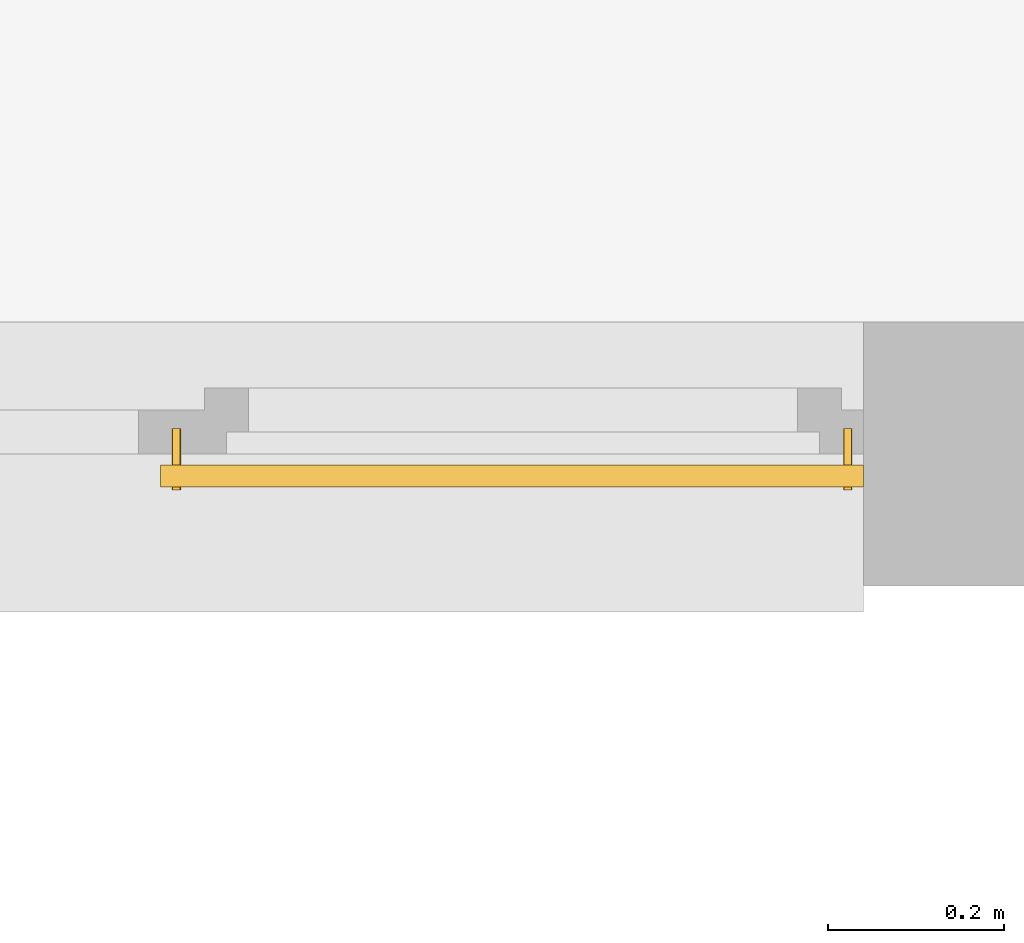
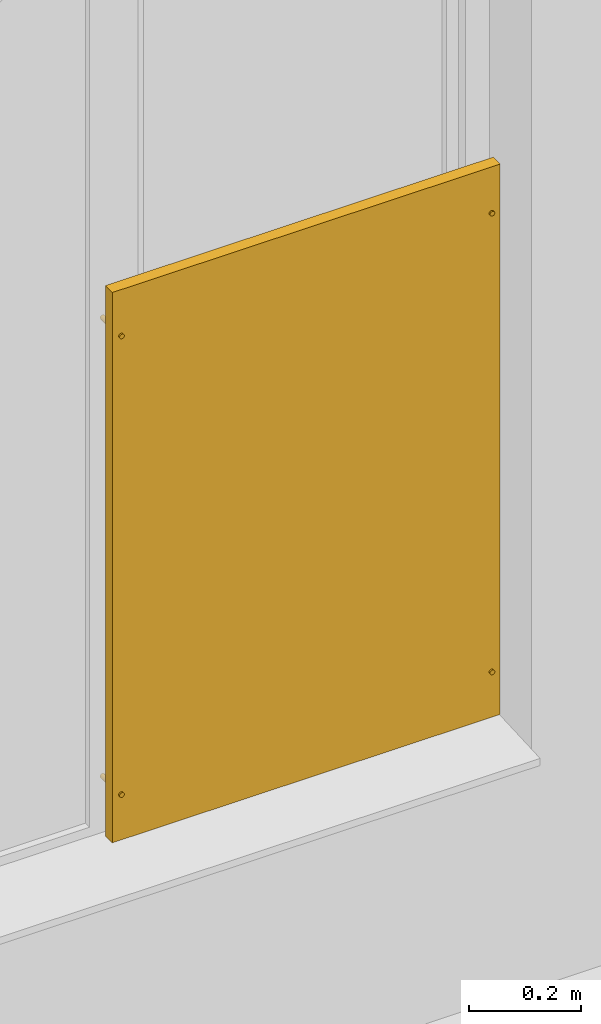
# One storey, part 8 of 8: 1 railing.
"""IFC2X3 building model written with IfcOpenShell, lengths in millimetres."""

from ifc_helpers import new_model, entity, si_unit, converted_unit, derived_unit, money_unit, direction, frame, origin_with_axes, place, context, subcontext, project, spatial, faceted_brep, material, material_list, type_object, element, save


model = new_model("IFC2X3")

# Units and contexts
model_context = context("Model", 3, precision=1e-05, world=origin_with_axes(), true_north=direction((0.0, 1.0)))
body_context = subcontext(model_context, "Body", "Model", "MODEL_VIEW")
ifc_project = project(units=[si_unit("LENGTHUNIT", "METRE", prefix="MILLI"), si_unit("AREAUNIT", "SQUARE_METRE"), si_unit("VOLUMEUNIT", "CUBIC_METRE"), converted_unit("PLANEANGLEUNIT", "DEGREE", entity("IfcPlaneAngleMeasure", 0.0174532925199), si_unit("PLANEANGLEUNIT", "RADIAN"), dimensions=[0, 0, 0, 0, 0, 0, 0]), si_unit("SOLIDANGLEUNIT", "STERADIAN"), money_unit("USD"), converted_unit("TIMEUNIT", "Year", entity("IfcTimeMeasure", 31556926.0), si_unit("TIMEUNIT", "SECOND"), dimensions=[0, 0, 1, 0, 0, 0, 0]), si_unit("MASSUNIT", "GRAM", prefix="KILO"), si_unit("THERMODYNAMICTEMPERATUREUNIT", "DEGREE_CELSIUS"), si_unit("LUMINOUSINTENSITYUNIT", "LUMEN"), si_unit("ENERGYUNIT", "JOULE", prefix="MEGA"), derived_unit("THERMALCONDUCTANCEUNIT", [(si_unit("POWERUNIT", "WATT"), 1), (si_unit("LENGTHUNIT", "METRE"), -1), (si_unit("THERMODYNAMICTEMPERATUREUNIT", "KELVIN"), -1)]), derived_unit("SPECIFICHEATCAPACITYUNIT", [(si_unit("ENERGYUNIT", "JOULE"), 1), (si_unit("MASSUNIT", "GRAM", prefix="KILO"), -1), (si_unit("THERMODYNAMICTEMPERATUREUNIT", "KELVIN"), -1)]), derived_unit("MASSDENSITYUNIT", [(si_unit("MASSUNIT", "GRAM", prefix="KILO"), 1), (si_unit("VOLUMEUNIT", "CUBIC_METRE"), -1)])], contexts=[model_context])

# Site, building, storey
site_placement = place(None, origin_with_axes())
site = spatial("IfcSite", under=ifc_project, at=site_placement, Name="Site", CompositionType="ELEMENT")
building_placement = place(site_placement, origin_with_axes())
building = spatial("IfcBuilding", under=site, at=building_placement, Name="Building", CompositionType="ELEMENT")
storey_placement = place(building_placement, origin_with_axes())
storey = spatial("IfcBuildingStorey", under=building, at=storey_placement, Name="Ground Floor", CompositionType="ELEMENT", Elevation=0.0)

# Railing
ifc_material = material(Name="Aluminium")
ifc_material_list = material_list([ifc_material, ifc_material, ifc_material, ifc_material, ifc_material, ifc_material])
railing_type = type_object("IfcRailingType", Name="Railing Type", PredefinedType="NOTDEFINED")
railing_placement = place(storey_placement, frame((-20307.1700511, 6703.49861059, 530.0), z_axis=(0.0, 0.0, 1.0), x_axis=(0.0, 1.0, 0.0)))
element("IfcRailing", 1, at=railing_placement, inside=storey, type_object=railing_type, material=ifc_material_list, Name="F-Line NORDKAPP 1,2m", PredefinedType="NOTDEFINED", context=body_context, shape_type="Brep", body=[
    faceted_brep([(-29.0, 791.5, 1191.5), (-29.0, 791.5, 8.5), (-29.0, 8.5, 8.5), (-29.0, 8.5, 1191.5), (-21.0, 791.5, 1191.5), (-21.0, 791.5, 8.5), (-21.0, 8.5, 8.5), (-21.0, 8.5, 1191.5)], [[[0, 1, 2, 3]], [[1, 0, 4, 5]], [[6, 2, 1, 5]], [[7, 3, 2, 6]], [[0, 3, 7, 4]], [[6, 5, 4, 7]]]),
    faceted_brep([(-41.0, 22.9240387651, 100.868240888), (29.0, 22.9240387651, 100.868240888), (29.0, 22.9240387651, 99.1317591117), (-41.0, 22.9240387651, 99.1317591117), (-41.0, 22.6984631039, 101.710100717), (29.0, 22.6984631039, 101.710100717), (29.0, 22.3301270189, 102.5), (29.0, 21.8302222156, 103.213938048), (29.0, 21.2139380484, 103.830222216), (29.0, 20.5, 104.330127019), (29.0, 19.7101007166, 104.698463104), (29.0, 18.8682408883, 104.924038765), (29.0, 18.0, 105.0), (29.0, 17.1317591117, 104.924038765), (29.0, 16.2898992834, 104.698463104), (29.0, 15.5, 104.330127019), (29.0, 14.7860619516, 103.830222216), (29.0, 14.1697777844, 103.213938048), (29.0, 13.6698729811, 102.5), (29.0, 13.3015368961, 101.710100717), (29.0, 13.0759612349, 100.868240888), (29.0, 13.0, 100.0), (29.0, 13.0759612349, 99.1317591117), (29.0, 13.3015368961, 98.2898992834), (29.0, 13.6698729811, 97.5), (29.0, 14.1697777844, 96.7860619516), (29.0, 14.7860619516, 96.1697777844), (29.0, 15.5, 95.6698729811), (29.0, 16.2898992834, 95.3015368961), (29.0, 17.1317591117, 95.0759612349), (29.0, 18.0, 95.0), (29.0, 18.8682408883, 95.0759612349), (29.0, 19.7101007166, 95.3015368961), (29.0, 20.5, 95.6698729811), (29.0, 21.2139380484, 96.1697777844), (29.0, 21.8302222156, 96.7860619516), (29.0, 22.3301270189, 97.5), (29.0, 22.6984631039, 98.2898992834), (-41.0, 22.6984631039, 98.2898992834), (-41.0, 22.3301270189, 97.5), (-41.0, 21.8302222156, 96.7860619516), (-41.0, 21.2139380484, 96.1697777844), (-41.0, 20.5, 95.6698729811), (-41.0, 19.7101007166, 95.3015368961), (-41.0, 18.8682408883, 95.0759612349), (-41.0, 18.0, 95.0), (-41.0, 17.1317591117, 95.0759612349), (-41.0, 16.2898992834, 95.3015368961), (-41.0, 15.5, 95.6698729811), (-41.0, 14.7860619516, 96.1697777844), (-41.0, 14.1697777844, 96.7860619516), (-41.0, 13.6698729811, 97.5), (-41.0, 13.3015368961, 98.2898992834), (-41.0, 13.0759612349, 99.1317591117), (-41.0, 13.0, 100.0), (-41.0, 13.0759612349, 100.868240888), (-41.0, 13.3015368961, 101.710100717), (-41.0, 13.6698729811, 102.5), (-41.0, 14.1697777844, 103.213938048), (-41.0, 14.7860619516, 103.830222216), (-41.0, 15.5, 104.330127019), (-41.0, 16.2898992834, 104.698463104), (-41.0, 17.1317591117, 104.924038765), (-41.0, 18.0, 105.0), (-41.0, 18.8682408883, 104.924038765), (-41.0, 19.7101007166, 104.698463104), (-41.0, 20.5, 104.330127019), (-41.0, 21.2139380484, 103.830222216), (-41.0, 21.8302222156, 103.213938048), (-41.0, 22.3301270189, 102.5)], [[[0, 1, 2, 3]], [[4, 5, 1, 0]], [[1, 5, 6, 7, 8, 9, 10, 11, 12, 13, 14, 15, 16, 17, 18, 19, 20, 21, 22, 23, 24, 25, 26, 27, 28, 29, 30, 31, 32, 33, 34, 35, 36, 37, 2]], [[3, 2, 37, 38]], [[0, 3, 38, 39, 40, 41, 42, 43, 44, 45, 46, 47, 48, 49, 50, 51, 52, 53, 54, 55, 56, 57, 58, 59, 60, 61, 62, 63, 64, 65, 66, 67, 68, 69, 4]], [[69, 6, 5, 4]], [[68, 7, 6, 69]], [[67, 8, 7, 68]], [[66, 9, 8, 67]], [[65, 10, 9, 66]], [[64, 11, 10, 65]], [[63, 12, 11, 64]], [[62, 13, 12, 63]], [[61, 14, 13, 62]], [[60, 15, 14, 61]], [[59, 16, 15, 60]], [[58, 17, 16, 59]], [[57, 18, 17, 58]], [[56, 19, 18, 57]], [[55, 20, 19, 56]], [[54, 21, 20, 55]], [[53, 22, 21, 54]], [[52, 23, 22, 53]], [[51, 24, 23, 52]], [[50, 25, 24, 51]], [[49, 26, 25, 50]], [[48, 27, 26, 49]], [[47, 28, 27, 48]], [[46, 29, 28, 47]], [[45, 30, 29, 46]], [[44, 31, 30, 45]], [[43, 32, 31, 44]], [[42, 33, 32, 43]], [[41, 34, 33, 42]], [[40, 35, 34, 41]], [[39, 36, 35, 40]], [[38, 37, 36, 39]]]),
    faceted_brep([(-41.0, 22.9240387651, 1100.86824089), (29.0, 22.9240387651, 1100.86824089), (29.0, 22.9240387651, 1099.13175911), (-41.0, 22.9240387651, 1099.13175911), (-41.0, 22.6984631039, 1101.71010072), (29.0, 22.6984631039, 1101.71010072), (29.0, 22.3301270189, 1102.5), (29.0, 21.8302222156, 1103.21393805), (29.0, 21.2139380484, 1103.83022222), (29.0, 20.5, 1104.33012702), (29.0, 19.7101007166, 1104.6984631), (29.0, 18.8682408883, 1104.92403877), (29.0, 18.0, 1105.0), (29.0, 17.1317591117, 1104.92403877), (29.0, 16.2898992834, 1104.6984631), (29.0, 15.5, 1104.33012702), (29.0, 14.7860619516, 1103.83022222), (29.0, 14.1697777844, 1103.21393805), (29.0, 13.6698729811, 1102.5), (29.0, 13.3015368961, 1101.71010072), (29.0, 13.0759612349, 1100.86824089), (29.0, 13.0, 1100.0), (29.0, 13.0759612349, 1099.13175911), (29.0, 13.3015368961, 1098.28989928), (29.0, 13.6698729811, 1097.5), (29.0, 14.1697777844, 1096.78606195), (29.0, 14.7860619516, 1096.16977778), (29.0, 15.5, 1095.66987298), (29.0, 16.2898992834, 1095.3015369), (29.0, 17.1317591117, 1095.07596123), (29.0, 18.0, 1095.0), (29.0, 18.8682408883, 1095.07596123), (29.0, 19.7101007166, 1095.3015369), (29.0, 20.5, 1095.66987298), (29.0, 21.2139380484, 1096.16977778), (29.0, 21.8302222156, 1096.78606195), (29.0, 22.3301270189, 1097.5), (29.0, 22.6984631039, 1098.28989928), (-41.0, 22.6984631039, 1098.28989928), (-41.0, 22.3301270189, 1097.5), (-41.0, 21.8302222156, 1096.78606195), (-41.0, 21.2139380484, 1096.16977778), (-41.0, 20.5, 1095.66987298), (-41.0, 19.7101007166, 1095.3015369), (-41.0, 18.8682408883, 1095.07596123), (-41.0, 18.0, 1095.0), (-41.0, 17.1317591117, 1095.07596123), (-41.0, 16.2898992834, 1095.3015369), (-41.0, 15.5, 1095.66987298), (-41.0, 14.7860619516, 1096.16977778), (-41.0, 14.1697777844, 1096.78606195), (-41.0, 13.6698729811, 1097.5), (-41.0, 13.3015368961, 1098.28989928), (-41.0, 13.0759612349, 1099.13175911), (-41.0, 13.0, 1100.0), (-41.0, 13.0759612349, 1100.86824089), (-41.0, 13.3015368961, 1101.71010072), (-41.0, 13.6698729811, 1102.5), (-41.0, 14.1697777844, 1103.21393805), (-41.0, 14.7860619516, 1103.83022222), (-41.0, 15.5, 1104.33012702), (-41.0, 16.2898992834, 1104.6984631), (-41.0, 17.1317591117, 1104.92403877), (-41.0, 18.0, 1105.0), (-41.0, 18.8682408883, 1104.92403877), (-41.0, 19.7101007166, 1104.6984631), (-41.0, 20.5, 1104.33012702), (-41.0, 21.2139380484, 1103.83022222), (-41.0, 21.8302222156, 1103.21393805), (-41.0, 22.3301270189, 1102.5)], [[[0, 1, 2, 3]], [[4, 5, 1, 0]], [[1, 5, 6, 7, 8, 9, 10, 11, 12, 13, 14, 15, 16, 17, 18, 19, 20, 21, 22, 23, 24, 25, 26, 27, 28, 29, 30, 31, 32, 33, 34, 35, 36, 37, 2]], [[3, 2, 37, 38]], [[0, 3, 38, 39, 40, 41, 42, 43, 44, 45, 46, 47, 48, 49, 50, 51, 52, 53, 54, 55, 56, 57, 58, 59, 60, 61, 62, 63, 64, 65, 66, 67, 68, 69, 4]], [[69, 6, 5, 4]], [[68, 7, 6, 69]], [[67, 8, 7, 68]], [[66, 9, 8, 67]], [[65, 10, 9, 66]], [[64, 11, 10, 65]], [[63, 12, 11, 64]], [[62, 13, 12, 63]], [[61, 14, 13, 62]], [[60, 15, 14, 61]], [[59, 16, 15, 60]], [[58, 17, 16, 59]], [[57, 18, 17, 58]], [[56, 19, 18, 57]], [[55, 20, 19, 56]], [[54, 21, 20, 55]], [[53, 22, 21, 54]], [[52, 23, 22, 53]], [[51, 24, 23, 52]], [[50, 25, 24, 51]], [[49, 26, 25, 50]], [[48, 27, 26, 49]], [[47, 28, 27, 48]], [[46, 29, 28, 47]], [[45, 30, 29, 46]], [[44, 31, 30, 45]], [[43, 32, 31, 44]], [[42, 33, 32, 43]], [[41, 34, 33, 42]], [[40, 35, 34, 41]], [[39, 36, 35, 40]], [[38, 37, 36, 39]]]),
    faceted_brep([(-41.0, 786.924038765, 100.868240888), (29.0, 786.924038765, 100.868240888), (29.0, 786.924038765, 99.1317591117), (-41.0, 786.924038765, 99.1317591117), (-41.0, 786.698463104, 101.710100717), (29.0, 786.698463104, 101.710100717), (29.0, 786.330127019, 102.5), (29.0, 785.830222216, 103.213938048), (29.0, 785.213938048, 103.830222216), (29.0, 784.5, 104.330127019), (29.0, 783.710100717, 104.698463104), (29.0, 782.868240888, 104.924038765), (29.0, 782.0, 105.0), (29.0, 781.131759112, 104.924038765), (29.0, 780.289899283, 104.698463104), (29.0, 779.5, 104.330127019), (29.0, 778.786061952, 103.830222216), (29.0, 778.169777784, 103.213938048), (29.0, 777.669872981, 102.5), (29.0, 777.301536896, 101.710100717), (29.0, 777.075961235, 100.868240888), (29.0, 777.0, 100.0), (29.0, 777.075961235, 99.1317591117), (29.0, 777.301536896, 98.2898992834), (29.0, 777.669872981, 97.5), (29.0, 778.169777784, 96.7860619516), (29.0, 778.786061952, 96.1697777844), (29.0, 779.5, 95.6698729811), (29.0, 780.289899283, 95.3015368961), (29.0, 781.131759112, 95.0759612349), (29.0, 782.0, 95.0), (29.0, 782.868240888, 95.0759612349), (29.0, 783.710100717, 95.3015368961), (29.0, 784.5, 95.6698729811), (29.0, 785.213938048, 96.1697777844), (29.0, 785.830222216, 96.7860619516), (29.0, 786.330127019, 97.5), (29.0, 786.698463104, 98.2898992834), (-41.0, 786.698463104, 98.2898992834), (-41.0, 786.330127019, 97.5), (-41.0, 785.830222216, 96.7860619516), (-41.0, 785.213938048, 96.1697777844), (-41.0, 784.5, 95.6698729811), (-41.0, 783.710100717, 95.3015368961), (-41.0, 782.868240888, 95.0759612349), (-41.0, 782.0, 95.0), (-41.0, 781.131759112, 95.0759612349), (-41.0, 780.289899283, 95.3015368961), (-41.0, 779.5, 95.6698729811), (-41.0, 778.786061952, 96.1697777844), (-41.0, 778.169777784, 96.7860619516), (-41.0, 777.669872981, 97.5), (-41.0, 777.301536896, 98.2898992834), (-41.0, 777.075961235, 99.1317591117), (-41.0, 777.0, 100.0), (-41.0, 777.075961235, 100.868240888), (-41.0, 777.301536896, 101.710100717), (-41.0, 777.669872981, 102.5), (-41.0, 778.169777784, 103.213938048), (-41.0, 778.786061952, 103.830222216), (-41.0, 779.5, 104.330127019), (-41.0, 780.289899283, 104.698463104), (-41.0, 781.131759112, 104.924038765), (-41.0, 782.0, 105.0), (-41.0, 782.868240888, 104.924038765), (-41.0, 783.710100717, 104.698463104), (-41.0, 784.5, 104.330127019), (-41.0, 785.213938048, 103.830222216), (-41.0, 785.830222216, 103.213938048), (-41.0, 786.330127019, 102.5)], [[[0, 1, 2, 3]], [[4, 5, 1, 0]], [[1, 5, 6, 7, 8, 9, 10, 11, 12, 13, 14, 15, 16, 17, 18, 19, 20, 21, 22, 23, 24, 25, 26, 27, 28, 29, 30, 31, 32, 33, 34, 35, 36, 37, 2]], [[3, 2, 37, 38]], [[0, 3, 38, 39, 40, 41, 42, 43, 44, 45, 46, 47, 48, 49, 50, 51, 52, 53, 54, 55, 56, 57, 58, 59, 60, 61, 62, 63, 64, 65, 66, 67, 68, 69, 4]], [[69, 6, 5, 4]], [[68, 7, 6, 69]], [[67, 8, 7, 68]], [[66, 9, 8, 67]], [[65, 10, 9, 66]], [[64, 11, 10, 65]], [[63, 12, 11, 64]], [[62, 13, 12, 63]], [[61, 14, 13, 62]], [[60, 15, 14, 61]], [[59, 16, 15, 60]], [[58, 17, 16, 59]], [[57, 18, 17, 58]], [[56, 19, 18, 57]], [[55, 20, 19, 56]], [[54, 21, 20, 55]], [[53, 22, 21, 54]], [[52, 23, 22, 53]], [[51, 24, 23, 52]], [[50, 25, 24, 51]], [[49, 26, 25, 50]], [[48, 27, 26, 49]], [[47, 28, 27, 48]], [[46, 29, 28, 47]], [[45, 30, 29, 46]], [[44, 31, 30, 45]], [[43, 32, 31, 44]], [[42, 33, 32, 43]], [[41, 34, 33, 42]], [[40, 35, 34, 41]], [[39, 36, 35, 40]], [[38, 37, 36, 39]]]),
    faceted_brep([(-41.0, 786.924038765, 1100.86824089), (29.0, 786.924038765, 1100.86824089), (29.0, 786.924038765, 1099.13175911), (-41.0, 786.924038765, 1099.13175911), (-41.0, 786.698463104, 1101.71010072), (29.0, 786.698463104, 1101.71010072), (29.0, 786.330127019, 1102.5), (29.0, 785.830222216, 1103.21393805), (29.0, 785.213938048, 1103.83022222), (29.0, 784.5, 1104.33012702), (29.0, 783.710100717, 1104.6984631), (29.0, 782.868240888, 1104.92403877), (29.0, 782.0, 1105.0), (29.0, 781.131759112, 1104.92403877), (29.0, 780.289899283, 1104.6984631), (29.0, 779.5, 1104.33012702), (29.0, 778.786061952, 1103.83022222), (29.0, 778.169777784, 1103.21393805), (29.0, 777.669872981, 1102.5), (29.0, 777.301536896, 1101.71010072), (29.0, 777.075961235, 1100.86824089), (29.0, 777.0, 1100.0), (29.0, 777.075961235, 1099.13175911), (29.0, 777.301536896, 1098.28989928), (29.0, 777.669872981, 1097.5), (29.0, 778.169777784, 1096.78606195), (29.0, 778.786061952, 1096.16977778), (29.0, 779.5, 1095.66987298), (29.0, 780.289899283, 1095.3015369), (29.0, 781.131759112, 1095.07596123), (29.0, 782.0, 1095.0), (29.0, 782.868240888, 1095.07596123), (29.0, 783.710100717, 1095.3015369), (29.0, 784.5, 1095.66987298), (29.0, 785.213938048, 1096.16977778), (29.0, 785.830222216, 1096.78606195), (29.0, 786.330127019, 1097.5), (29.0, 786.698463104, 1098.28989928), (-41.0, 786.698463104, 1098.28989928), (-41.0, 786.330127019, 1097.5), (-41.0, 785.830222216, 1096.78606195), (-41.0, 785.213938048, 1096.16977778), (-41.0, 784.5, 1095.66987298), (-41.0, 783.710100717, 1095.3015369), (-41.0, 782.868240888, 1095.07596123), (-41.0, 782.0, 1095.0), (-41.0, 781.131759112, 1095.07596123), (-41.0, 780.289899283, 1095.3015369), (-41.0, 779.5, 1095.66987298), (-41.0, 778.786061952, 1096.16977778), (-41.0, 778.169777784, 1096.78606195), (-41.0, 777.669872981, 1097.5), (-41.0, 777.301536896, 1098.28989928), (-41.0, 777.075961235, 1099.13175911), (-41.0, 777.0, 1100.0), (-41.0, 777.075961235, 1100.86824089), (-41.0, 777.301536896, 1101.71010072), (-41.0, 777.669872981, 1102.5), (-41.0, 778.169777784, 1103.21393805), (-41.0, 778.786061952, 1103.83022222), (-41.0, 779.5, 1104.33012702), (-41.0, 780.289899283, 1104.6984631), (-41.0, 781.131759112, 1104.92403877), (-41.0, 782.0, 1105.0), (-41.0, 782.868240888, 1104.92403877), (-41.0, 783.710100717, 1104.6984631), (-41.0, 784.5, 1104.33012702), (-41.0, 785.213938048, 1103.83022222), (-41.0, 785.830222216, 1103.21393805), (-41.0, 786.330127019, 1102.5)], [[[0, 1, 2, 3]], [[4, 5, 1, 0]], [[1, 5, 6, 7, 8, 9, 10, 11, 12, 13, 14, 15, 16, 17, 18, 19, 20, 21, 22, 23, 24, 25, 26, 27, 28, 29, 30, 31, 32, 33, 34, 35, 36, 37, 2]], [[3, 2, 37, 38]], [[0, 3, 38, 39, 40, 41, 42, 43, 44, 45, 46, 47, 48, 49, 50, 51, 52, 53, 54, 55, 56, 57, 58, 59, 60, 61, 62, 63, 64, 65, 66, 67, 68, 69, 4]], [[69, 6, 5, 4]], [[68, 7, 6, 69]], [[67, 8, 7, 68]], [[66, 9, 8, 67]], [[65, 10, 9, 66]], [[64, 11, 10, 65]], [[63, 12, 11, 64]], [[62, 13, 12, 63]], [[61, 14, 13, 62]], [[60, 15, 14, 61]], [[59, 16, 15, 60]], [[58, 17, 16, 59]], [[57, 18, 17, 58]], [[56, 19, 18, 57]], [[55, 20, 19, 56]], [[54, 21, 20, 55]], [[53, 22, 21, 54]], [[52, 23, 22, 53]], [[51, 24, 23, 52]], [[50, 25, 24, 51]], [[49, 26, 25, 50]], [[48, 27, 26, 49]], [[47, 28, 27, 48]], [[46, 29, 28, 47]], [[45, 30, 29, 46]], [[44, 31, 30, 45]], [[43, 32, 31, 44]], [[42, 33, 32, 43]], [[41, 34, 33, 42]], [[40, 35, 34, 41]], [[39, 36, 35, 40]], [[38, 37, 36, 39]]]),
    faceted_brep([(-12.5, 800.0, 0.0), (-37.5, 800.0, 0.0), (-37.5, 800.0, 1200.0), (-12.5, 800.0, 1200.0), (-12.5, 763.0, 37.0), (-21.0, 763.0, 37.0), (-21.0, 791.5, 8.5), (-29.0, 791.5, 8.5), (-29.0, 763.0, 37.0), (-37.5, 763.0, 37.0), (-37.5, 763.0, 1163.0), (-37.5, 37.0, 1163.0), (-37.5, 37.0, 37.0), (-37.5, 763.0, 37.0), (-37.5, 800.0, 0.0), (-37.5, 0.0, 0.0), (-37.5, 0.0, 1200.0), (-12.5, 0.0, 1200.0), (-12.5, 0.0, 0.0), (-12.5, 800.0, 0.0), (-12.5, 763.0, 37.0), (-12.5, 37.0, 37.0), (-12.5, 37.0, 1163.0), (-12.5, 763.0, 1163.0), (-21.0, 763.0, 1163.0), (-21.0, 37.0, 1163.0), (-21.0, 37.0, 37.0), (-21.0, 763.0, 37.0), (-21.0, 791.5, 8.5), (-21.0, 8.5, 8.5), (-21.0, 8.5, 1191.5), (-21.0, 791.5, 1191.5), (-29.0, 791.5, 1191.5), (-29.0, 8.5, 1191.5), (-29.0, 8.5, 8.5), (-29.0, 791.5, 8.5), (-29.0, 763.0, 37.0), (-29.0, 37.0, 37.0), (-29.0, 37.0, 1163.0), (-29.0, 763.0, 1163.0)], [[[0, 1, 2, 3]], [[0, 4, 5, 6, 7, 8, 9, 1]], [[1, 9, 10, 11, 12, 13, 14, 15, 16, 2]], [[3, 2, 16, 17]], [[4, 0, 3, 17, 18, 19, 20, 21, 22, 23]], [[5, 4, 23, 24]], [[6, 5, 24, 25, 26, 27, 28, 29, 30, 31]], [[7, 6, 31, 32]], [[8, 7, 32, 33, 34, 35, 36, 37, 38, 39]], [[9, 8, 39, 10]], [[10, 39, 38, 11]], [[11, 38, 37, 12]], [[12, 37, 36, 13]], [[19, 14, 13, 36, 35, 28, 27, 20]], [[18, 15, 14, 19]], [[17, 16, 15, 18]], [[26, 21, 20, 27]], [[25, 22, 21, 26]], [[24, 23, 22, 25]], [[34, 29, 28, 35]], [[33, 30, 29, 34]], [[32, 31, 30, 33]]]),
])

save(model, "model.ifc")
